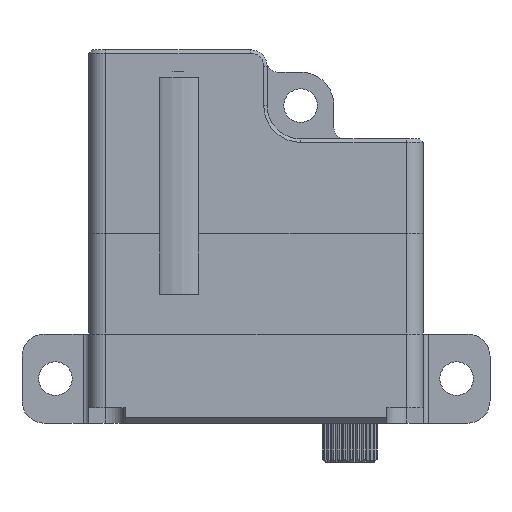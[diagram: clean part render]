
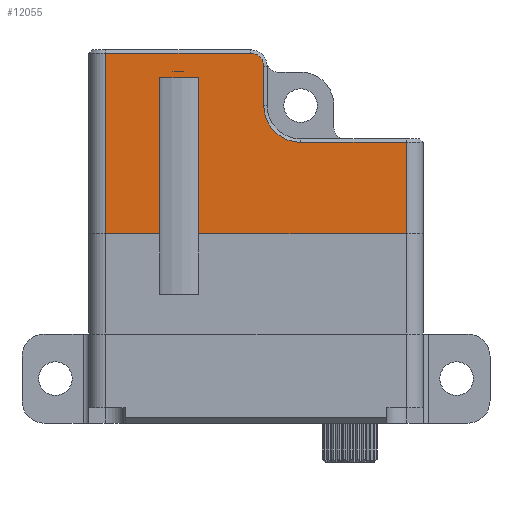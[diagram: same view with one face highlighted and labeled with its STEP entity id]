
A CAD part, left-side view. The second image highlights one B-rep face of the part: STEP entity #12055.
In plain terms, the highlighted planar face has unit normal (-1, 0, 0).
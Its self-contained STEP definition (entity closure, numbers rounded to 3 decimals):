
#46 = EDGE_LOOP ( 'NONE', ( #11527, #7623, #10612, #2118, #6063, #7656, #6621, #3492, #5545, #1783, #3098, #7652 ) ) ;
#193 = VECTOR ( 'NONE', #9083, 1000. ) ;
#207 = CARTESIAN_POINT ( 'NONE',  ( -42.782, -4.865, 10.595 ) ) ;
#208 = DIRECTION ( 'NONE',  ( 0., 1., 0. ) ) ;
#791 = DIRECTION ( 'NONE',  ( 0., 1., 0. ) ) ;
#1023 = VERTEX_POINT ( 'NONE', #5974 ) ;
#1037 = VERTEX_POINT ( 'NONE', #11092 ) ;
#1058 = CARTESIAN_POINT ( 'NONE',  ( -42.782, -4.865, 14.06 ) ) ;
#1134 = CARTESIAN_POINT ( 'NONE',  ( -42.782, -4.865, 19.86 ) ) ;
#1248 = DIRECTION ( 'NONE',  ( 0., 1., 0. ) ) ;
#1321 = VERTEX_POINT ( 'NONE', #1342 ) ;
#1342 = CARTESIAN_POINT ( 'NONE',  ( -42.782, 18.63, 19.86 ) ) ;
#1441 = VECTOR ( 'NONE', #8839, 1000. ) ;
#1455 = VERTEX_POINT ( 'NONE', #11128 ) ;
#1643 = CARTESIAN_POINT ( 'NONE',  ( -42.782, 18.63, 10.595 ) ) ;
#1748 = LINE ( 'NONE', #4299, #8995 ) ;
#1783 = ORIENTED_EDGE ( 'NONE', *, *, #10571, .T. ) ;
#1827 = CARTESIAN_POINT ( 'NONE',  ( -42.782, -3.515, 10.595 ) ) ;
#1934 = EDGE_CURVE ( 'NONE', #4344, #6567, #5971, .T. ) ;
#2101 = EDGE_CURVE ( 'NONE', #1023, #12609, #1748, .T. ) ;
#2118 = ORIENTED_EDGE ( 'NONE', *, *, #5063, .T. ) ;
#2187 = CIRCLE ( 'NONE', #9174, 3.3 ) ;
#2424 = EDGE_CURVE ( 'NONE', #10652, #11103, #4678, .T. ) ;
#2906 = CARTESIAN_POINT ( 'NONE',  ( -42.782, 10.485, 20.86 ) ) ;
#2956 = LINE ( 'NONE', #12076, #193 ) ;
#2983 = CARTESIAN_POINT ( 'NONE',  ( -42.782, 23.485, 10.595 ) ) ;
#3098 = ORIENTED_EDGE ( 'NONE', *, *, #2101, .T. ) ;
#3124 = EDGE_CURVE ( 'NONE', #12675, #1321, #7878, .T. ) ;
#3178 = LINE ( 'NONE', #12924, #8619 ) ;
#3492 = ORIENTED_EDGE ( 'NONE', *, *, #11801, .T. ) ;
#3769 = LINE ( 'NONE', #12664, #9220 ) ;
#4299 = CARTESIAN_POINT ( 'NONE',  ( -42.782, 15.13, 10.595 ) ) ;
#4344 = VERTEX_POINT ( 'NONE', #10996 ) ;
#4366 = DIRECTION ( 'NONE',  ( 0., -1., 0. ) ) ;
#4630 = AXIS2_PLACEMENT_3D ( 'NONE', #2906, #6019, #5058 ) ;
#4678 = LINE ( 'NONE', #12674, #8347 ) ;
#4938 = VECTOR ( 'NONE', #8289, 1000. ) ;
#5026 = CARTESIAN_POINT ( 'NONE',  ( -42.782, 23.485, 5.86 ) ) ;
#5058 = DIRECTION ( 'NONE',  ( 0., 1., 0. ) ) ;
#5063 = EDGE_CURVE ( 'NONE', #1037, #11778, #3178, .T. ) ;
#5242 = EDGE_CURVE ( 'NONE', #11778, #10652, #12751, .T. ) ;
#5273 = VECTOR ( 'NONE', #7113, 1000. ) ;
#5545 = ORIENTED_EDGE ( 'NONE', *, *, #3124, .T. ) ;
#5714 = DIRECTION ( 'NONE',  ( 0., 0., 1. ) ) ;
#5821 = CARTESIAN_POINT ( 'NONE',  ( -42.782, 18.63, 5.86 ) ) ;
#5971 = LINE ( 'NONE', #1827, #6752 ) ;
#5974 = CARTESIAN_POINT ( 'NONE',  ( -42.782, 15.13, 19.86 ) ) ;
#6019 = DIRECTION ( 'NONE',  ( -1., 0., 0. ) ) ;
#6043 = LINE ( 'NONE', #1058, #4938 ) ;
#6063 = ORIENTED_EDGE ( 'NONE', *, *, #5242, .T. ) ;
#6133 = DIRECTION ( 'NONE',  ( 0., 0., 1. ) ) ;
#6567 = VERTEX_POINT ( 'NONE', #10675 ) ;
#6580 = DIRECTION ( 'NONE',  ( 0., -1., 0. ) ) ;
#6591 = CARTESIAN_POINT ( 'NONE',  ( -42.782, 10.485, 22.06 ) ) ;
#6606 = EDGE_CURVE ( 'NONE', #1455, #1037, #2187, .T. ) ;
#6621 = ORIENTED_EDGE ( 'NONE', *, *, #12779, .T. ) ;
#6752 = VECTOR ( 'NONE', #6133, 1000. ) ;
#7003 = CARTESIAN_POINT ( 'NONE',  ( -42.782, 15.13, 5.86 ) ) ;
#7113 = DIRECTION ( 'NONE',  ( 0., 0., -1. ) ) ;
#7413 = DIRECTION ( 'NONE',  ( -1., 0., 0. ) ) ;
#7623 = ORIENTED_EDGE ( 'NONE', *, *, #10471, .T. ) ;
#7652 = ORIENTED_EDGE ( 'NONE', *, *, #11288, .T. ) ;
#7656 = ORIENTED_EDGE ( 'NONE', *, *, #2424, .T. ) ;
#7878 = LINE ( 'NONE', #1643, #1441 ) ;
#8056 = AXIS2_PLACEMENT_3D ( 'NONE', #207, #7413, #1248 ) ;
#8269 = VECTOR ( 'NONE', #4366, 1000. ) ;
#8289 = DIRECTION ( 'NONE',  ( 0., 1., 0. ) ) ;
#8347 = VECTOR ( 'NONE', #208, 1000. ) ;
#8619 = VECTOR ( 'NONE', #5714, 1000. ) ;
#8839 = DIRECTION ( 'NONE',  ( 0., 0., 1. ) ) ;
#8855 = DIRECTION ( 'NONE',  ( 1., 0., 0. ) ) ;
#8901 = LINE ( 'NONE', #1134, #8269 ) ;
#8909 = CARTESIAN_POINT ( 'NONE',  ( -42.782, 5.985, 17.36 ) ) ;
#8995 = VECTOR ( 'NONE', #11421, 1000. ) ;
#9083 = DIRECTION ( 'NONE',  ( 0., -1., 0. ) ) ;
#9174 = AXIS2_PLACEMENT_3D ( 'NONE', #8909, #8855, #791 ) ;
#9220 = VECTOR ( 'NONE', #6580, 1000. ) ;
#9340 = CARTESIAN_POINT ( 'NONE',  ( -42.782, 23.485, 22.06 ) ) ;
#10453 = PLANE ( 'NONE',  #8056 ) ;
#10471 = EDGE_CURVE ( 'NONE', #6567, #1455, #6043, .T. ) ;
#10571 = EDGE_CURVE ( 'NONE', #1321, #1023, #8901, .T. ) ;
#10612 = ORIENTED_EDGE ( 'NONE', *, *, #6606, .T. ) ;
#10652 = VERTEX_POINT ( 'NONE', #6591 ) ;
#10675 = CARTESIAN_POINT ( 'NONE',  ( -42.782, -3.515, 14.06 ) ) ;
#10795 = CARTESIAN_POINT ( 'NONE',  ( -42.782, 9.285, 20.86 ) ) ;
#10996 = CARTESIAN_POINT ( 'NONE',  ( -42.782, -3.515, 5.86 ) ) ;
#11092 = CARTESIAN_POINT ( 'NONE',  ( -42.782, 9.285, 17.36 ) ) ;
#11103 = VERTEX_POINT ( 'NONE', #9340 ) ;
#11128 = CARTESIAN_POINT ( 'NONE',  ( -42.782, 5.985, 14.06 ) ) ;
#11288 = EDGE_CURVE ( 'NONE', #12609, #4344, #3769, .T. ) ;
#11421 = DIRECTION ( 'NONE',  ( 0., 0., -1. ) ) ;
#11527 = ORIENTED_EDGE ( 'NONE', *, *, #1934, .T. ) ;
#11567 = FACE_OUTER_BOUND ( 'NONE', #46, .T. ) ;
#11778 = VERTEX_POINT ( 'NONE', #10795 ) ;
#11801 = EDGE_CURVE ( 'NONE', #12404, #12675, #2956, .T. ) ;
#11960 = LINE ( 'NONE', #2983, #5273 ) ;
#12055 = ADVANCED_FACE ( 'NONE', ( #11567 ), #10453, .T. ) ;
#12076 = CARTESIAN_POINT ( 'NONE',  ( -42.782, -4.865, 5.86 ) ) ;
#12404 = VERTEX_POINT ( 'NONE', #5026 ) ;
#12609 = VERTEX_POINT ( 'NONE', #7003 ) ;
#12664 = CARTESIAN_POINT ( 'NONE',  ( -42.782, -4.865, 5.86 ) ) ;
#12674 = CARTESIAN_POINT ( 'NONE',  ( -42.782, -4.865, 22.06 ) ) ;
#12675 = VERTEX_POINT ( 'NONE', #5821 ) ;
#12751 = CIRCLE ( 'NONE', #4630, 1.2 ) ;
#12779 = EDGE_CURVE ( 'NONE', #11103, #12404, #11960, .T. ) ;
#12924 = CARTESIAN_POINT ( 'NONE',  ( -42.782, 9.285, 20.86 ) ) ;
